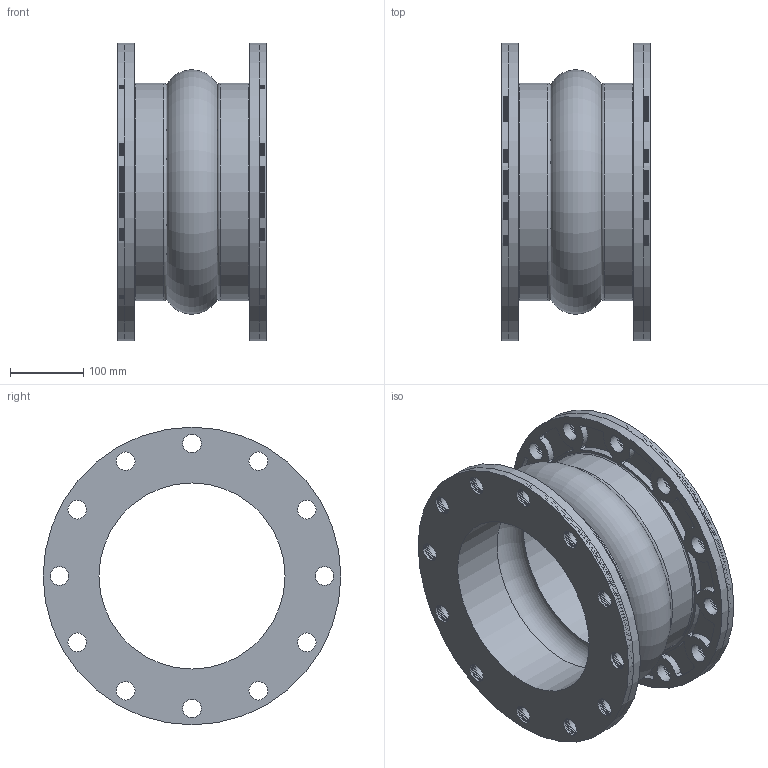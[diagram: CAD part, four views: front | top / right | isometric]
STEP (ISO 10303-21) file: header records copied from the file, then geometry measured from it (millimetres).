
FILE_DESCRIPTION((''),'2;1');
FILE_NAME('N:\StockJoints-ADSK, IGES, STEP, PNG\STEP\451 10x8.stp','2013-05-23T11:20:24',('mquog'),(''),'Autodesk Inventor 2011','Autodesk Inventor 2011','');
FILE_SCHEMA(('AUTOMOTIVE_DESIGN { 1 0 10303 214 1 1 1 1 }'));
Length unit declared in the file: inch
Products named in the file (3): 451 10x8; Style451 10x8; 10DI450BUR150
Assembly tree (3 placements, depth 2):
  451 10x8
    Style451 10x8
    10DI450BUR150  x2
Bounding box: 203.2 x 406.4 x 406.4 mm (x, y, z)
Volume: 5661617.2 mm3; surface area: 5259875.6 mm2
Topology: 14 solids, 14 shells, 646 faces, 1690 edges, 1110 vertices
Faces by surface type: cylinder 488, plane 110, torus 48
Full cylindrical faces by diameter (mm): 25.4 x192, 254 x2, 260.35 x4, 266.7 x8, 268.732 x4, 270.764 x4, 272.796 x4, 274.828 x4, 278.003 x2, 280.988 x2, 285.75 x2, 296.863 x2, 403.225 x14, 406.4 x4
Entity records: 14164 total; most frequent: DIRECTION 2614, CARTESIAN_POINT 2188, ORIENTED_EDGE 1852, AXIS2_PLACEMENT_3D 1210, EDGE_LOOP 1156, EDGE_CURVE 926, VERTEX_POINT 782, CIRCLE 734
